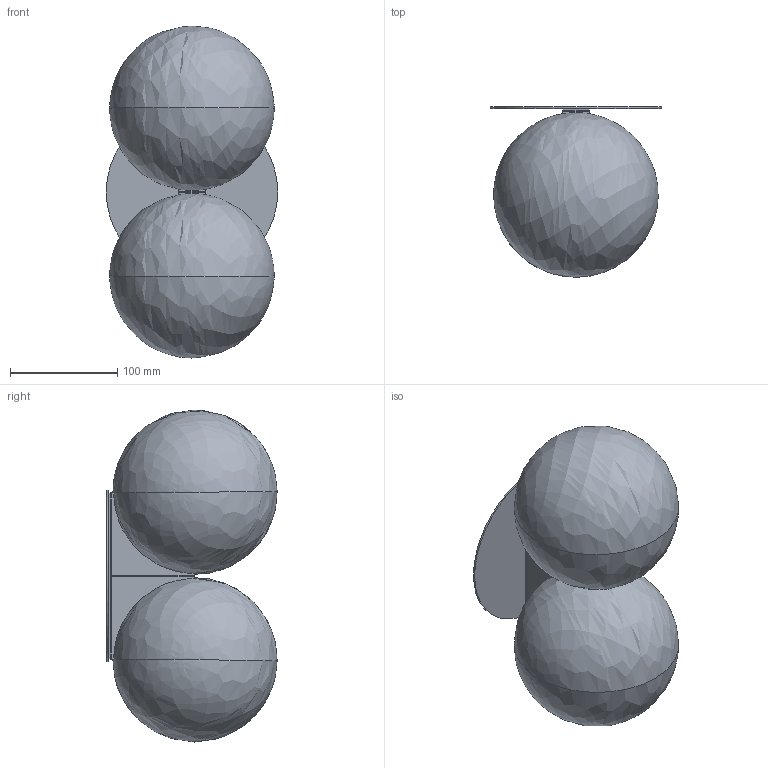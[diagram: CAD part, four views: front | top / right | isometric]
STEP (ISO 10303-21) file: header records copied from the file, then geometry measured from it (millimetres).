
FILE_DESCRIPTION(/* description */ (''),/* implementation_level */ '2;1');
FILE_NAME(/* name */ 'MA_BAC DS150_120V_2017',/* time_stamp */ '2020-12-02T11:37:54+00:00',/* author */ (''),/* organization */ (''),/* preprocessor_version */ 'ST-DEVELOPER v15',/* originating_system */ '',/* authorisation */ '');
FILE_SCHEMA (('AUTOMOTIVE_DESIGN'));
Length unit declared in the file: millimetre
Products named in the file (1): Document
Bounding box: 160 x 158.94 x 309.89 mm (x, y, z)
Surface area: 192487.1 mm2 (no closed solid volume)
Topology: 0 solids, 1 shells, 31 faces, 106 edges, 66 vertices
Faces by surface type: plane 25, bspline 6
Entity records: 1212 total; most frequent: CARTESIAN_POINT 613, ORIENTED_EDGE 172, EDGE_CURVE 98, VERTEX_POINT 66, B_SPLINE_CURVE_WITH_KNOTS 64, EDGE_LOOP 34, ADVANCED_FACE 31, FACE_OUTER_BOUND 31
